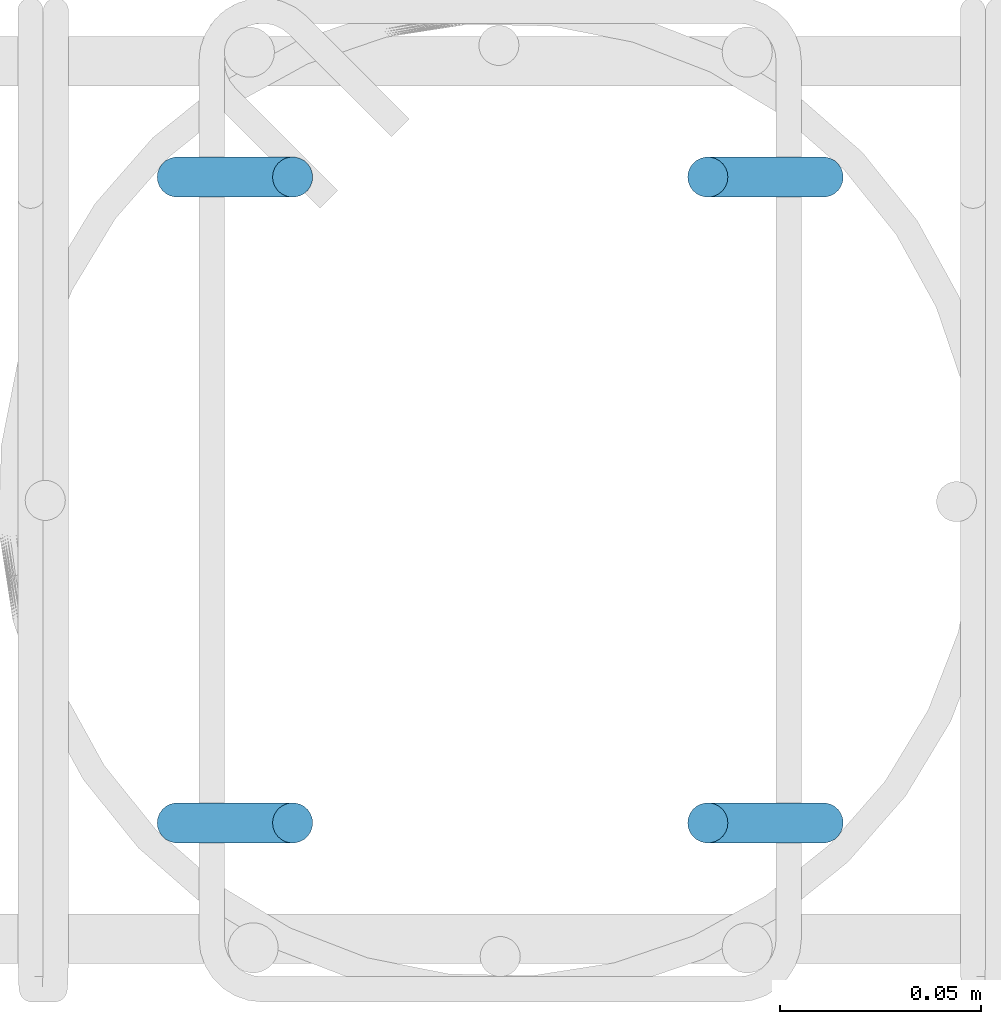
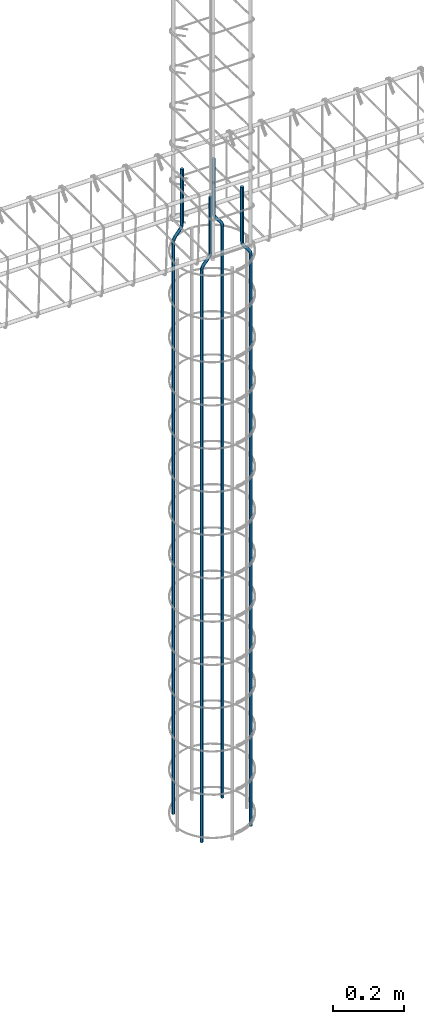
# One storey, part 7 of 14: 4 reinforcing bars.
"""IFC4 building model written with IfcOpenShell, lengths in centimetres."""

import ifcopenshell
import ifcopenshell.guid

model = None  # the IFC model being written
_history = None  # IfcOwnerHistory: only IFC2X3 demands one
_inside = {}  # id of a spatial element -> (the spatial element, [elements in it])
_under = {}  # id of a project, library or spatial element -> (it, [spatial elements below it])
_declared = {}  # id of a project -> (the project, [libraries it declares])
_typed = {}  # id of a type object -> (the type object, [elements of that type])
_made_of = {}  # id of a material, layer set ... -> (it, [elements and type objects made of it])


def new_model(schema):
    """Start an empty IFC model of exactly this schema.

    Asked for "IFC4X3", IfcOpenShell would pick the latest addendum, in which some entities
    have other attributes; the version numbers below select the first issue.
    IFC2X3 requires an IfcOwnerHistory on every rooted entity: one is made here for all.
    """
    global model, _history
    if schema == "IFC4X3":
        model = ifcopenshell.file(schema_version=(4, 3, 0, 0))
    else:
        model = ifcopenshell.file(schema=schema)
    _inside.clear()
    _under.clear()
    _declared.clear()
    _typed.clear()
    _made_of.clear()
    _history = None
    if model.schema == "IFC2X3":
        org = make("IfcOrganization", Name="unknown")
        user = make(
            "IfcPersonAndOrganization",
            ThePerson=make("IfcPerson", FamilyName="unknown"),
            TheOrganization=org,
        )
        app = make(
            "IfcApplication",
            ApplicationDeveloper=org,
            Version="unknown",
            ApplicationFullName="unknown",
            ApplicationIdentifier="unknown",
        )
        _history = make(
            "IfcOwnerHistory",
            OwningUser=user,
            OwningApplication=app,
            ChangeAction="ADDED",
            CreationDate=0,
        )
    return model


def make(cls, **values):
    """One entity of the class cls with the attributes given. An attribute that is None is left unset."""
    return model.create_entity(
        cls, **{name: value for name, value in values.items() if value is not None}
    )


def entity(cls, *values):
    """Any entity or typed value of the class cls, its attributes in the order of the schema. None: left unset."""
    e = model.create_entity(cls)
    for i, value in enumerate(values):
        if value is not None:
            e[i] = value
    return e


def rooted(cls, **values):
    """An entity with a GlobalId (a new one), such as an element, a storey or a relation."""
    return make(cls, GlobalId=ifcopenshell.guid.new(), OwnerHistory=_history, **values)


def si_unit(unit_type, name, prefix=None):
    """IfcSIUnit, for example si_unit("LENGTHUNIT", "METRE", prefix="MILLI")."""
    return make("IfcSIUnit", UnitType=unit_type, Prefix=prefix, Name=name)


def converted_unit(unit_type, name, factor, base, dimensions=None, offset=None):
    """IfcConversionBasedUnit, such as the inch: factor (a typed value) times the base unit."""
    return make(
        "IfcConversionBasedUnit"
        if offset is None
        else "IfcConversionBasedUnitWithOffset",
        ConversionOffset=offset,
        Dimensions=None
        if dimensions is None
        else entity("IfcDimensionalExponents", *dimensions),
        UnitType=unit_type,
        Name=name,
        ConversionFactor=make(
            "IfcMeasureWithUnit", ValueComponent=factor, UnitComponent=base
        ),
    )


def derived_unit(unit_type, elements):
    """IfcDerivedUnit: a product of units, each with its exponent."""
    return make(
        "IfcDerivedUnit",
        Elements=[
            make("IfcDerivedUnitElement", Unit=unit, Exponent=power)
            for unit, power in elements
        ],
        UnitType=unit_type,
    )


def assignment(units):
    """IfcUnitAssignment: the units of a project."""
    return None if units is None else make("IfcUnitAssignment", Units=units)


def point(xyz):
    """IfcCartesianPoint."""
    return None if xyz is None else make("IfcCartesianPoint", Coordinates=xyz)


def direction(xyz):
    """IfcDirection."""
    return None if xyz is None else make("IfcDirection", DirectionRatios=xyz)


def frame(location, z_axis=None, x_axis=None):
    """IfcAxis2Placement3D, a coordinate frame: its origin and axes. An axis left out is left unset."""
    return make(
        "IfcAxis2Placement3D",
        Location=point(location),
        Axis=direction(z_axis),
        RefDirection=direction(x_axis),
    )


def origin():
    """The frame at (0, 0, 0) with its axes left unset."""
    return frame((0.0, 0.0, 0.0))


def place(relative_to, where):
    """IfcLocalPlacement: puts the frame where relative to a parent placement (None: the world)."""
    return make(
        "IfcLocalPlacement", PlacementRelTo=relative_to, RelativePlacement=where
    )


def context(
    kind, dimensions, precision=None, world=None, true_north=None, identifier=None
):
    """IfcGeometricRepresentationContext, for example the 3D "Model" context."""
    return make(
        "IfcGeometricRepresentationContext",
        ContextIdentifier=identifier,
        ContextType=kind,
        CoordinateSpaceDimension=dimensions,
        Precision=precision,
        WorldCoordinateSystem=world,
        TrueNorth=true_north,
    )


def subcontext(parent, identifier, kind, view, scale=None):
    """IfcGeometricRepresentationSubContext, for example "Body" below "Model"."""
    return make(
        "IfcGeometricRepresentationSubContext",
        ContextIdentifier=identifier,
        ContextType=kind,
        ParentContext=parent,
        TargetScale=scale,
        TargetView=view,
    )


def project(units=None, contexts=None):
    """IfcProject with its units and contexts."""
    return rooted(
        "IfcProject",
        Name="project",
        RepresentationContexts=contexts,
        UnitsInContext=assignment(units),
    )


def spatial(cls, under=None, at=None, **own):
    """A site, building, storey or space (cls), placed at a placement, below another one or the project."""
    s = rooted(cls, ObjectPlacement=at, **own)
    if under is not None:
        _under.setdefault(under.id(), (under, []))[1].append(s)
    return s


def shape(context_of_items, identifier, shape_type, items):
    """IfcShapeRepresentation: the items that make up one representation, for example the "Body"."""
    return make(
        "IfcShapeRepresentation",
        ContextOfItems=context_of_items,
        RepresentationIdentifier=identifier,
        RepresentationType=shape_type,
        Items=items,
    )


def made_of(thing, what):
    """Note that an element or type object is made of a material, layer set ...; save() writes the relation."""
    if what is not None:
        _made_of.setdefault(what.id(), (what, []))[1].append(thing)
    return thing


def type_object(cls, material=None, **own):
    """A type object (cls), such as IfcWallType, which elements share."""
    return made_of(rooted(cls, **own), material)


def element(
    cls,
    number,
    at=None,
    inside=None,
    cuts=None,
    type_object=None,
    material=None,
    context=None,
    identifier="Body",
    shape_type=None,
    held_by="IfcProductDefinitionShape",
    body=None,
    shapes=None,
    **own,
):
    """One element of the class cls, such as IfcWall. Its Tag is "e" and its number.

    at: its placement. inside: the storey or other place that contains it. cuts: it is an
    opening in that element (IfcRelVoidsElement). A single representation is given by context,
    identifier, shape_type and body (its items); several are given by shapes. held_by: the class
    of the entity that holds the representations. save() writes the other relations.
    """
    e = rooted(cls, Tag="e%d" % number, ObjectPlacement=at, **own)
    if body is not None:
        shapes = [shape(context, identifier, shape_type, body)]
    if shapes is not None:
        e.Representation = make(held_by, Representations=shapes)
    if inside is not None:
        _inside.setdefault(inside.id(), (inside, []))[1].append(e)
    if cuts is not None:
        rooted(
            "IfcRelVoidsElement", RelatingBuildingElement=cuts, RelatedOpeningElement=e
        )
    if type_object is not None:
        _typed.setdefault(type_object.id(), (type_object, []))[1].append(e)
    return made_of(e, material)


def aggregate(whole, parts):
    """IfcRelAggregates: a whole, such as a stair, and the parts it consists of."""
    return rooted("IfcRelAggregates", RelatingObject=whole, RelatedObjects=parts)


def save(model, path):
    """Write the relations noted so far, then the file.

    IfcRelAggregates (storeys below a building ...), IfcRelContainedInSpatialStructure (elements
    in a storey), IfcRelDefinesByType, IfcRelAssociatesMaterial and IfcRelDeclares: one each for
    every whole, place, type object, material and project.
    """
    for whole, parts in _under.values():
        aggregate(whole, parts)
    for where, things in _inside.values():
        rooted(
            "IfcRelContainedInSpatialStructure",
            RelatedElements=things,
            RelatingStructure=where,
        )
    for kind, things in _typed.values():
        rooted("IfcRelDefinesByType", RelatedObjects=things, RelatingType=kind)
    for what, things in _made_of.values():
        rooted("IfcRelAssociatesMaterial", RelatedObjects=things, RelatingMaterial=what)
    for by, libraries in _declared.values():
        rooted("IfcRelDeclares", RelatingContext=by, RelatedDefinitions=libraries)
    model.write(path)


model = new_model("IFC4")

# Units and contexts
model_context = context("Model", 3, precision=0.001, world=origin(), true_north=direction((6.123233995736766e-17, 1.0)))
body_context = subcontext(model_context, "Body", "Model", "MODEL_VIEW")
ifc_project = project(units=[si_unit("LENGTHUNIT", "METRE", prefix="CENTI"), si_unit("AREAUNIT", "SQUARE_METRE"), converted_unit("PLANEANGLEUNIT", "DEGREE", entity("IfcPlaneAngleMeasure", 0.017453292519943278), si_unit("PLANEANGLEUNIT", "RADIAN"), dimensions=[0, 0, 0, 0, 0, 0, 0]), si_unit("VOLUMEUNIT", "CUBIC_METRE"), derived_unit("THERMALTRANSMITTANCEUNIT", [(si_unit("MASSUNIT", "GRAM", prefix="KILO"), 1), (si_unit("THERMODYNAMICTEMPERATUREUNIT", "KELVIN"), -1), (si_unit("TIMEUNIT", "SECOND"), -3)])], contexts=[model_context])

# Site, building, storey
site_placement = place(None, origin())
site = spatial("IfcSite", under=ifc_project, at=site_placement, Name="Default", CompositionType="ELEMENT")
building_placement = place(site_placement, origin())
building = spatial("IfcBuilding", under=site, at=building_placement, Name="CONTENÇÃO DE ARQUIBANCADA - GINÁSIO PADRÃO", CompositionType="ELEMENT")
storey_placement = place(building_placement, frame((0.0, 0.0, -100.0)))
storey = spatial("IfcBuildingStorey", under=building, at=storey_placement, Name="Nível 3", CompositionType="ELEMENT", Elevation=-100.0)

# Reinforcing bars
reinforcing_bar_type = type_object("IfcReinforcingBarType", Name="Barra do vergalhão:10 CA-50", PredefinedType="NOTDEFINED")
reinforcing_bar_1_placement = place(storey_placement, origin())
element("IfcReinforcingBar", 1, at=reinforcing_bar_1_placement, inside=storey, type_object=reinforcing_bar_type, Name="Barra do vergalhão:10 CA-50 : Forma 19", ObjectType="Barra do vergalhão:10 CA-50", context=body_context, shape_type="AdvancedSweptSolid", body=[
    entity("IfcSweptDiskSolid", entity("IfcIndexedPolyCurve", entity("IfcCartesianPointList3D", [[202.49613089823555, 257.11499005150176, -129.99999999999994], [202.49613089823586, 257.11499005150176, 67.4289900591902], [202.32148148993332, 257.11499005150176, 68.43764958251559], [201.8178682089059, 257.11499005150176, 69.32886791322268], [200.30230626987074, 257.11499005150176, 71.18095366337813], [199.7986929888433, 257.11499005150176, 72.07217199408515], [199.62404358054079, 257.1149900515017, 73.08083151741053], [199.6240435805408, 257.1149900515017, 92.00982157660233]]), [entity("IfcLineIndex", [1, 2]), entity("IfcArcIndex", [2, 3, 4]), entity("IfcLineIndex", [4, 5]), entity("IfcArcIndex", [5, 6, 7]), entity("IfcLineIndex", [7, 8])], False), 0.5, None, 0.0, 81.58693171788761),
])
reinforcing_bar_2_placement = place(storey_placement, origin())
element("IfcReinforcingBar", 2, at=reinforcing_bar_2_placement, inside=storey, type_object=reinforcing_bar_type, Name="Barra do vergalhão:10 CA-50 : Forma 19", ObjectType="Barra do vergalhão:10 CA-50", context=body_context, shape_type="AdvancedSweptSolid", body=[
    entity("IfcSweptDiskSolid", entity("IfcIndexedPolyCurve", entity("IfcCartesianPointList3D", [[186.41450124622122, 257.11499005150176, -129.99999999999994], [186.41450124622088, 257.11499005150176, 67.4289900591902], [186.58915065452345, 257.11499005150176, 68.43764958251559], [187.09276393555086, 257.11499005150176, 69.32886791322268], [188.60832587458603, 257.11499005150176, 71.18095366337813], [189.11193915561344, 257.11499005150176, 72.07217199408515], [189.28658856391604, 257.1149900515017, 73.08083151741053], [189.286588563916, 257.1149900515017, 92.00982157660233]]), [entity("IfcLineIndex", [1, 2]), entity("IfcArcIndex", [2, 3, 4]), entity("IfcLineIndex", [4, 5]), entity("IfcArcIndex", [5, 6, 7]), entity("IfcLineIndex", [7, 8])], False), 0.5, None, 0.0, 81.58693171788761),
])
reinforcing_bar_3_placement = place(storey_placement, origin())
element("IfcReinforcingBar", 3, at=reinforcing_bar_3_placement, inside=storey, type_object=reinforcing_bar_type, Name="Barra do vergalhão:10 CA-50 : Forma 19", ObjectType="Barra do vergalhão:10 CA-50", context=body_context, shape_type="AdvancedSweptSolid", body=[
    entity("IfcSweptDiskSolid", entity("IfcIndexedPolyCurve", entity("IfcCartesianPointList3D", [[202.49613089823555, 241.0333603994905, -129.99999999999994], [202.49613089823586, 241.0333603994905, 67.4289900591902], [202.32148148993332, 241.0333603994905, 68.43764958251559], [201.8178682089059, 241.0333603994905, 69.32886791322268], [200.30230626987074, 241.0333603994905, 71.18095366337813], [199.7986929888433, 241.0333603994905, 72.07217199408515], [199.62404358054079, 241.0333603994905, 73.08083151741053], [199.6240435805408, 241.0333603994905, 92.00982157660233]]), [entity("IfcLineIndex", [1, 2]), entity("IfcArcIndex", [2, 3, 4]), entity("IfcLineIndex", [4, 5]), entity("IfcArcIndex", [5, 6, 7]), entity("IfcLineIndex", [7, 8])], False), 0.5, None, 0.0, 81.58693171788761),
])
reinforcing_bar_4_placement = place(storey_placement, origin())
element("IfcReinforcingBar", 4, at=reinforcing_bar_4_placement, inside=storey, type_object=reinforcing_bar_type, Name="Barra do vergalhão:10 CA-50 : Forma 19", ObjectType="Barra do vergalhão:10 CA-50", context=body_context, shape_type="AdvancedSweptSolid", body=[
    entity("IfcSweptDiskSolid", entity("IfcIndexedPolyCurve", entity("IfcCartesianPointList3D", [[186.41450124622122, 241.0333603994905, -129.99999999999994], [186.41450124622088, 241.0333603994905, 67.4289900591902], [186.58915065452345, 241.0333603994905, 68.43764958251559], [187.09276393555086, 241.0333603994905, 69.32886791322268], [188.60832587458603, 241.0333603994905, 71.18095366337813], [189.11193915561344, 241.0333603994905, 72.07217199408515], [189.28658856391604, 241.0333603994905, 73.08083151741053], [189.286588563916, 241.0333603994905, 92.00982157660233]]), [entity("IfcLineIndex", [1, 2]), entity("IfcArcIndex", [2, 3, 4]), entity("IfcLineIndex", [4, 5]), entity("IfcArcIndex", [5, 6, 7]), entity("IfcLineIndex", [7, 8])], False), 0.5, None, 0.0, 81.58693171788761),
])

save(model, "model.ifc")
